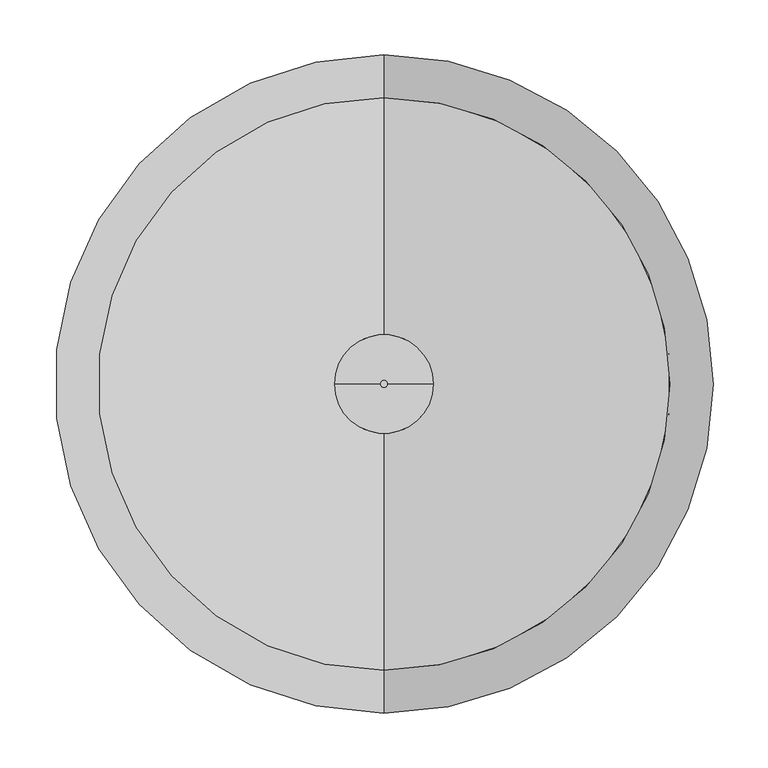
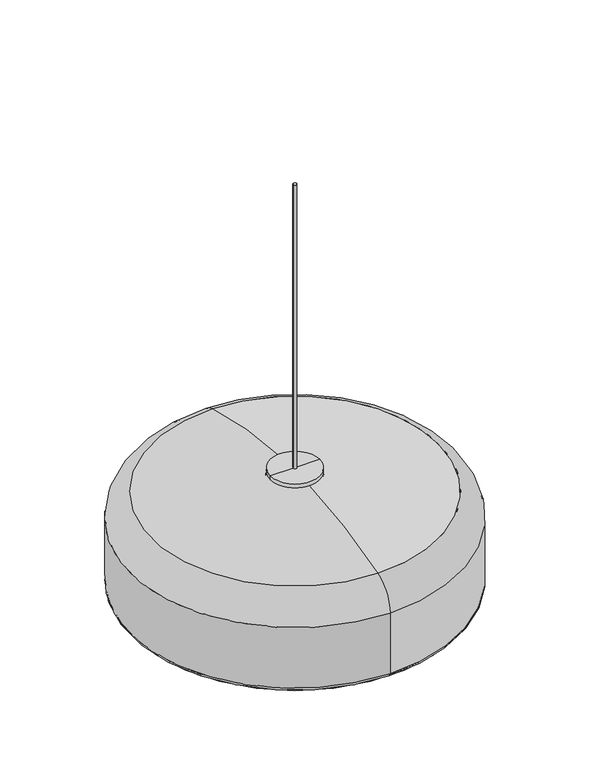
"""IFC4 building model written with IfcOpenShell, lengths in millimetres: furniture geometry, Flos - Smithfield S : Haloguen."""

from ifc_helpers import new_model, si_unit, point, frame, frame_2d, origin, place, context, project, spatial, polyline, circle_curve, ellipse_curve, trimmed, segment, composite_curve, outline, extrude, source, transform, mapped, element, save
from ifc_brep_helpers import plane_surface, cylinder_surface, revolved_surface, advanced_brep


def furniture_e454bbac(model_context):
    return source(origin(), model_context, "Body", "SolidModel", [
        extrude(outline(composite_curve([segment(trimmed(circle_curve(frame_2d((-361.1339083, 345.7919098)), 3.18), [point((-364.3139083, 345.7919098))], [point((-357.9539083, 345.7919098))], False, "CARTESIAN"), True, "CONTINUOUS"), segment(trimmed(circle_curve(frame_2d((-361.1339083, 345.7919098)), 3.18), [point((-357.9539083, 345.7919098))], [point((-364.3139083, 345.7919098))], False, "CARTESIAN"), True, "CONTINUOUS")], self_intersect=False)), frame((0.0, 0.0, 736.41), z_axis=(0.0, 0.0, 1.0), x_axis=(1.0, 0.0, 0.0)), (0.0, 0.0, 1.0), 545.59),
        advanced_brep(
        [(-361.1339083, 345.7919098, 715.65), (-316.1339083, 345.7919098, 715.65), (-406.1339083, 345.7919098, 715.65), (-406.1339083, 345.7919098, 736.41), (-316.1339083, 345.7919098, 736.41), (-361.1339083, 345.7919098, 736.41)],
        [
            (0, 1),
            (1, 2, circle_curve(frame((-361.1339083, 345.7919098, 715.65), z_axis=(0.0, 0.0, -1.0), x_axis=(1.0, 0.0, 0.0)), 45.0)),
            (2, 0),
            (2, 1, circle_curve(frame((-361.1339083, 345.7919098, 715.65), z_axis=(0.0, 0.0, -1.0), x_axis=(1.0, 0.0, 0.0)), 45.0)),
            (3, 4, circle_curve(frame((-361.1339083, 345.7919098, 736.41), z_axis=(0.0, 0.0, 1.0), x_axis=(1.0, 0.0, 0.0)), 45.0)),
            (4, 5),
            (5, 3),
            (4, 3, circle_curve(frame((-361.1339083, 345.7919098, 736.41), z_axis=(0.0, 0.0, 1.0), x_axis=(1.0, 0.0, 0.0)), 45.0)),
            (1, 4),
            (3, 2),
        ],
        [
            plane_surface(frame((-361.1339083, 345.7919098, 715.65), z_axis=(0.0, 0.0, -1.0), x_axis=(1.0, 0.0, 0.0))),
            plane_surface(frame((-361.1339083, 345.7919098, 736.41), z_axis=(0.0, 0.0, 1.0), x_axis=(1.0, 0.0, 0.0))),
            cylinder_surface(frame((-361.1339083, 345.7919098, 831.41), z_axis=(0.0, 0.0, -1.0), x_axis=(1.0, 0.0, 0.0)), 45.0),
        ],
        [
            (0, [[1, 2, 3]]),
            (0, [[-3, 4, -1]]),
            (1, [[5, 6, 7]]),
            (1, [[8, -7, -6]]),
            (2, [[-2, 9, -5, 10]]),
            (2, [[-4, -10, -8, -9]]),
        ],
    ),
        advanced_brep(
        [(-361.1339083, 345.7919098, 512.6624824), (-68.1339083, 345.7919098, 512.6624824), (-654.1339083, 345.7919098, 512.6624824), (-654.1339083, 345.7919098, 519.0124824), (-68.1339083, 345.7919098, 519.0124824), (-361.1339083, 345.7919098, 519.0124824)],
        [
            (0, 1),
            (1, 2, circle_curve(frame((-361.1339083, 345.7919098, 512.6624824), z_axis=(0.0, 0.0, -1.0), x_axis=(1.0, 0.0, 0.0)), 293.0)),
            (2, 0),
            (2, 1, circle_curve(frame((-361.1339083, 345.7919098, 512.6624824), z_axis=(0.0, 0.0, -1.0), x_axis=(1.0, 0.0, 0.0)), 293.0)),
            (3, 4, circle_curve(frame((-361.1339083, 345.7919098, 519.0124824), z_axis=(0.0, 0.0, 1.0), x_axis=(1.0, 0.0, 0.0)), 293.0)),
            (4, 5),
            (5, 3),
            (4, 3, circle_curve(frame((-361.1339083, 345.7919098, 519.0124824), z_axis=(0.0, 0.0, 1.0), x_axis=(1.0, 0.0, 0.0)), 293.0)),
            (1, 4),
            (3, 2),
        ],
        [
            plane_surface(frame((-361.1339083, 345.7919098, 512.6624824), z_axis=(0.0, 0.0, -1.0), x_axis=(1.0, 0.0, 0.0))),
            plane_surface(frame((-361.1339083, 345.7919098, 519.0124824), z_axis=(0.0, 0.0, 1.0), x_axis=(1.0, 0.0, 0.0))),
            cylinder_surface(frame((-361.1339083, 345.7919098, 670.06), z_axis=(0.0, 0.0, -1.0), x_axis=(1.0, 0.0, 0.0)), 293.0),
        ],
        [
            (0, [[1, 2, 3]]),
            (0, [[-3, 4, -1]]),
            (1, [[5, 6, 7]]),
            (1, [[8, -7, -6]]),
            (2, [[-2, 9, -5, 10]]),
            (2, [[-4, -10, -8, -9]]),
        ],
    ),
        advanced_brep(
        [(-361.1339083, 85.130672, 689.6086958), (-361.1339083, 606.4531476, 689.6086958), (-361.1339083, 392.3819098, 727.4621824), (-361.1339083, 299.2019098, 727.4621824), (-361.1339083, 47.3819098, 638.5464424), (-361.1339083, 644.2019098, 638.5464424), (-361.1339083, 47.3819098, 522.06), (-361.1339083, 644.2019098, 522.06), (-361.1339083, 52.7919098, 516.65), (-361.1339083, 638.7919098, 516.65), (-361.1339083, 52.7919098, 515.06), (-361.1339083, 638.7919098, 515.06), (-361.1339083, 45.7919098, 522.06), (-361.1339083, 645.7919098, 522.06), (-361.1339083, 45.7919098, 638.5464424), (-361.1339083, 645.7919098, 638.5464424), (-361.1339083, 84.6644416, 691.1288041), (-361.1339083, 606.9193781, 691.1288041), (-361.1339083, 300.7919098, 729.1362399), (-361.1339083, 390.7919098, 729.1362399), (-361.1339083, 300.7919098, 715.65), (-361.1339083, 390.7919098, 715.65), (-361.1339083, 345.7919098, 715.65), (-361.1339083, 299.2019098, 714.06), (-361.1339083, 392.3819098, 714.06), (-361.1339083, 345.7919098, 714.06)],
        [
            (0, 1, circle_curve(frame((-361.1339083, 345.7919098, 689.6086958), z_axis=(0.0, 0.0, -1.0), x_axis=(0.0, 1.0, 0.0)), 260.6612378)),
            (1, 2, circle_curve(frame((-361.1339083, 345.7919098, -160.2570921), z_axis=(1.0, 0.0, 0.0), x_axis=(0.0, 1.0, 0.0)), 888.9410208)),
            (2, 3, circle_curve(frame((-361.1339083, 345.7919098, 727.4621824), z_axis=(0.0, 0.0, 1.0), x_axis=(0.0, 1.0, 0.0)), 46.59)),
            (3, 0, circle_curve(frame((-361.1339083, 345.7919098, -160.2570921), z_axis=(1.0, 0.0, 0.0), x_axis=(0.0, -1.0, 0.0)), 888.9410208)),
            (1, 0, circle_curve(frame((-361.1339083, 345.7919098, 689.6086958), z_axis=(0.0, 0.0, -1.0), x_axis=(0.0, 1.0, 0.0)), 260.6612378)),
            (3, 2, circle_curve(frame((-361.1339083, 345.7919098, 727.4621824), z_axis=(0.0, 0.0, 1.0), x_axis=(0.0, 1.0, 0.0)), 46.59)),
            (4, 5, circle_curve(frame((-361.1339083, 345.7919098, 638.5464424), z_axis=(0.0, 0.0, -1.0), x_axis=(0.0, 1.0, 0.0)), 298.41)),
            (5, 1, circle_curve(frame((-361.1339083, 590.7919098, 638.5464424), z_axis=(1.0, 0.0, 0.0), x_axis=(0.0, 1.0, 0.0)), 53.41)),
            (0, 4, circle_curve(frame((-361.1339083, 100.7919098, 638.5464424), z_axis=(1.0, 0.0, 0.0), x_axis=(0.0, -1.0, 0.0)), 53.41)),
            (5, 4, circle_curve(frame((-361.1339083, 345.7919098, 638.5464424), z_axis=(0.0, 0.0, -1.0), x_axis=(0.0, 1.0, 0.0)), 298.41)),
            (6, 7, circle_curve(frame((-361.1339083, 345.7919098, 522.06), z_axis=(0.0, 0.0, -1.0), x_axis=(0.0, 1.0, 0.0)), 298.41)),
            (7, 5),
            (4, 6),
            (7, 6, circle_curve(frame((-361.1339083, 345.7919098, 522.06), z_axis=(0.0, 0.0, -1.0), x_axis=(0.0, 1.0, 0.0)), 298.41)),
            (8, 9, circle_curve(frame((-361.1339083, 345.7919098, 516.65), z_axis=(0.0, 0.0, -1.0), x_axis=(0.0, 1.0, 0.0)), 293.0)),
            (9, 7, circle_curve(frame((-361.1339083, 638.7919098, 522.06), z_axis=(1.0, 0.0, 0.0), x_axis=(0.0, 1.0, 0.0)), 5.41)),
            (6, 8, circle_curve(frame((-361.1339083, 52.7919098, 522.06), z_axis=(1.0, 0.0, 0.0), x_axis=(0.0, -1.0, 0.0)), 5.41)),
            (9, 8, circle_curve(frame((-361.1339083, 345.7919098, 516.65), z_axis=(0.0, 0.0, -1.0), x_axis=(0.0, 1.0, 0.0)), 293.0)),
            (10, 11, circle_curve(frame((-361.1339083, 345.7919098, 515.06), z_axis=(0.0, 0.0, -1.0), x_axis=(0.0, 1.0, 0.0)), 293.0)),
            (11, 9),
            (8, 10),
            (11, 10, circle_curve(frame((-361.1339083, 345.7919098, 515.06), z_axis=(0.0, 0.0, -1.0), x_axis=(0.0, 1.0, 0.0)), 293.0)),
            (12, 13, circle_curve(frame((-361.1339083, 345.7919098, 522.06), z_axis=(0.0, 0.0, -1.0), x_axis=(0.0, 1.0, 0.0)), 300.0)),
            (13, 11, circle_curve(frame((-361.1339083, 638.7919098, 522.06), z_axis=(-1.0, 0.0, 0.0), x_axis=(0.0, 1.0, 0.0)), 7.0)),
            (10, 12, circle_curve(frame((-361.1339083, 52.7919098, 522.06), z_axis=(-1.0, 0.0, 0.0), x_axis=(0.0, -1.0, 0.0)), 7.0)),
            (13, 12, circle_curve(frame((-361.1339083, 345.7919098, 522.06), z_axis=(0.0, 0.0, -1.0), x_axis=(0.0, 1.0, 0.0)), 300.0)),
            (14, 15, circle_curve(frame((-361.1339083, 345.7919098, 638.5464424), z_axis=(0.0, 0.0, -1.0), x_axis=(0.0, 1.0, 0.0)), 300.0)),
            (15, 13),
            (12, 14),
            (15, 14, circle_curve(frame((-361.1339083, 345.7919098, 638.5464424), z_axis=(0.0, 0.0, -1.0), x_axis=(0.0, 1.0, 0.0)), 300.0)),
            (16, 17, circle_curve(frame((-361.1339083, 345.7919098, 691.1288041), z_axis=(0.0, 0.0, -1.0), x_axis=(0.0, 1.0, 0.0)), 261.1274682)),
            (17, 15, circle_curve(frame((-361.1339083, 590.7919098, 638.5464424), z_axis=(-1.0, 0.0, 0.0), x_axis=(0.0, 1.0, 0.0)), 55.0)),
            (14, 16, circle_curve(frame((-361.1339083, 100.7919098, 638.5464424), z_axis=(-1.0, 0.0, 0.0), x_axis=(0.0, -1.0, 0.0)), 55.0)),
            (17, 16, circle_curve(frame((-361.1339083, 345.7919098, 691.1288041), z_axis=(0.0, 0.0, -1.0), x_axis=(0.0, 1.0, 0.0)), 261.1274682)),
            (18, 19, circle_curve(frame((-361.1339083, 345.7919098, 729.1362399), z_axis=(0.0, 0.0, -1.0), x_axis=(0.0, 1.0, 0.0)), 45.0)),
            (19, 17, circle_curve(frame((-361.1339083, 345.7919098, -160.2570921), z_axis=(-1.0, 0.0, 0.0), x_axis=(0.0, 1.0, 0.0)), 890.5310208)),
            (16, 18, circle_curve(frame((-361.1339083, 345.7919098, -160.2570921), z_axis=(-1.0, 0.0, 0.0), x_axis=(0.0, -1.0, 0.0)), 890.5310208)),
            (19, 18, circle_curve(frame((-361.1339083, 345.7919098, 729.1362399), z_axis=(0.0, 0.0, -1.0), x_axis=(0.0, 1.0, 0.0)), 45.0)),
            (20, 21, circle_curve(frame((-361.1339083, 345.7919098, 715.65), z_axis=(0.0, 0.0, -1.0), x_axis=(0.0, 1.0, 0.0)), 45.0)),
            (21, 19),
            (18, 20),
            (21, 20, circle_curve(frame((-361.1339083, 345.7919098, 715.65), z_axis=(0.0, 0.0, -1.0), x_axis=(0.0, 1.0, 0.0)), 45.0)),
            (22, 21),
            (20, 22),
            (23, 24, circle_curve(frame((-361.1339083, 345.7919098, 714.06), z_axis=(0.0, 0.0, -1.0), x_axis=(0.0, 1.0, 0.0)), 46.59)),
            (24, 25),
            (25, 23),
            (24, 23, circle_curve(frame((-361.1339083, 345.7919098, 714.06), z_axis=(0.0, 0.0, -1.0), x_axis=(0.0, 1.0, 0.0)), 46.59)),
            (2, 24),
            (23, 3),
        ],
        [
            revolved_surface(trimmed(ellipse_curve(frame((-361.1339083, 345.7919098, -160.2570921), z_axis=(-1.0, 0.0, 0.0), x_axis=(0.0, 1.0, 0.0)), 888.9410208, 888.9410208), [point((-361.1339083, 392.3819098, 727.4621824))], [point((-361.1339083, 606.4531476, 689.6086958))], True, "CARTESIAN"), (-361.1339083, 345.7919098, 714.06), (0.0, 0.0, 1.0)),
            revolved_surface(trimmed(ellipse_curve(frame((-361.1339083, 590.7919098, 638.5464424), z_axis=(-1.0, 0.0, 0.0), x_axis=(0.0, 1.0, 0.0)), 53.41, 53.41), [point((-361.1339083, 606.4531476, 689.6086958))], [point((-361.1339083, 644.2019098, 638.5464424))], True, "CARTESIAN"), (-361.1339083, 345.7919098, 714.06), (0.0, 0.0, 1.0)),
            revolved_surface(polyline([(-361.1339083, 644.2019098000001, 638.5464424), (-361.1339083, 644.2019098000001, 522.06)]), (-361.1339083, 345.7919098, 714.06), (0.0, 0.0, 1.0)),
            revolved_surface(trimmed(ellipse_curve(frame((-361.1339083, 638.7919098, 522.06), z_axis=(-1.0, 0.0, 0.0), x_axis=(0.0, 1.0, 0.0)), 5.41, 5.41), [point((-361.1339083, 644.2019098, 522.06))], [point((-361.1339083, 638.7919098, 516.65))], True, "CARTESIAN"), (-361.1339083, 345.7919098, 714.06), (0.0, 0.0, 1.0)),
            revolved_surface(polyline([(-361.1339083, 638.7919098, 516.65), (-361.1339083, 638.7919098, 515.06)]), (-361.1339083, 345.7919098, 714.06), (0.0, 0.0, 1.0)),
            revolved_surface(trimmed(ellipse_curve(frame((-361.1339083, 638.7919098, 522.06), z_axis=(1.0, 0.0, 0.0), x_axis=(0.0, 1.0, 0.0)), 7.0, 7.0), [point((-361.1339083, 638.7919098, 515.06))], [point((-361.1339083, 645.7919098, 522.06))], True, "CARTESIAN"), (-361.1339083, 345.7919098, 714.06), (0.0, 0.0, 1.0)),
            cylinder_surface(frame((-361.1339083, 345.7919098, 714.06), z_axis=(0.0, 0.0, 1.0), x_axis=(0.0, 1.0, 0.0)), 300.0),
            revolved_surface(trimmed(ellipse_curve(frame((-361.1339083, 590.7919098, 638.5464424), z_axis=(1.0, 0.0, 0.0), x_axis=(0.0, 1.0, 0.0)), 55.0, 55.0), [point((-361.1339083, 645.7919098, 638.5464424))], [point((-361.1339083, 606.9193781, 691.1288041))], True, "CARTESIAN"), (-361.1339083, 345.7919098, 714.06), (0.0, 0.0, 1.0)),
            revolved_surface(trimmed(ellipse_curve(frame((-361.1339083, 345.7919098, -160.2570921), z_axis=(1.0, 0.0, 0.0), x_axis=(0.0, 1.0, 0.0)), 890.5310208, 890.5310208), [point((-361.1339083, 606.9193781, 691.1288041))], [point((-361.1339083, 390.7919098, 729.1362399))], True, "CARTESIAN"), (-361.1339083, 345.7919098, 714.06), (0.0, 0.0, 1.0)),
            revolved_surface(polyline([(-361.1339083, 390.7919098, 729.1362399), (-361.1339083, 390.7919098, 715.65)]), (-361.1339083, 345.7919098, 714.06), (0.0, 0.0, 1.0)),
            plane_surface(frame((-361.1339083, 345.7919098, 715.65), z_axis=(0.0, 0.0, 1.0), x_axis=(0.0, 1.0, 0.0))),
            plane_surface(frame((-361.1339083, 345.7919098, 714.06), z_axis=(0.0, 0.0, -1.0), x_axis=(0.0, 1.0, 0.0))),
            cylinder_surface(frame((-361.1339083, 345.7919098, 714.06), z_axis=(0.0, 0.0, 1.0), x_axis=(0.0, 1.0, 0.0)), 46.59),
        ],
        [
            (0, [[1, 2, 3, 4]]),
            (0, [[5, -4, 6, -2]]),
            (1, [[7, 8, -1, 9]]),
            (1, [[10, -9, -5, -8]]),
            (2, [[11, 12, -7, 13]]),
            (2, [[14, -13, -10, -12]]),
            (3, [[15, 16, -11, 17]]),
            (3, [[18, -17, -14, -16]]),
            (4, [[19, 20, -15, 21]]),
            (4, [[22, -21, -18, -20]]),
            (5, [[23, 24, -19, 25]]),
            (5, [[26, -25, -22, -24]]),
            (6, [[27, 28, -23, 29]]),
            (6, [[30, -29, -26, -28]]),
            (7, [[31, 32, -27, 33]]),
            (7, [[34, -33, -30, -32]]),
            (8, [[35, 36, -31, 37]]),
            (8, [[38, -37, -34, -36]]),
            (9, [[39, 40, -35, 41]]),
            (9, [[42, -41, -38, -40]]),
            (10, [[43, -39, 44]]),
            (10, [[-44, -42, -43]]),
            (11, [[45, 46, 47]]),
            (11, [[48, -47, -46]]),
            (12, [[-3, 49, -45, 50]]),
            (12, [[-6, -50, -48, -49]]),
        ],
    ),
    ])


if __name__ == "__main__":
    model = new_model("IFC4")
    model_context = context("Model", 3, world=origin())
    ifc_project = project(units=[si_unit("LENGTHUNIT", "METRE", prefix="MILLI")], contexts=[model_context])
    site = spatial("IfcSite", under=ifc_project)
    building = spatial("IfcBuilding", under=site)
    placement = place(None, origin())
    furniture_shape = furniture_e454bbac(model_context)
    element("IfcFurniture", 1, ObjectType="Flos - Smithfield S : Haloguen", at=placement, inside=building, context=model_context, shape_type="MappedRepresentation", body=[
        mapped(furniture_shape, transform((0.0, 0.0, 0.0), x_axis=(1.0, 0.0, 0.0), y_axis=(0.0, 1.0, 0.0), z_axis=(0.0, 0.0, 1.0))),
    ])
    save(model, "model.ifc")
